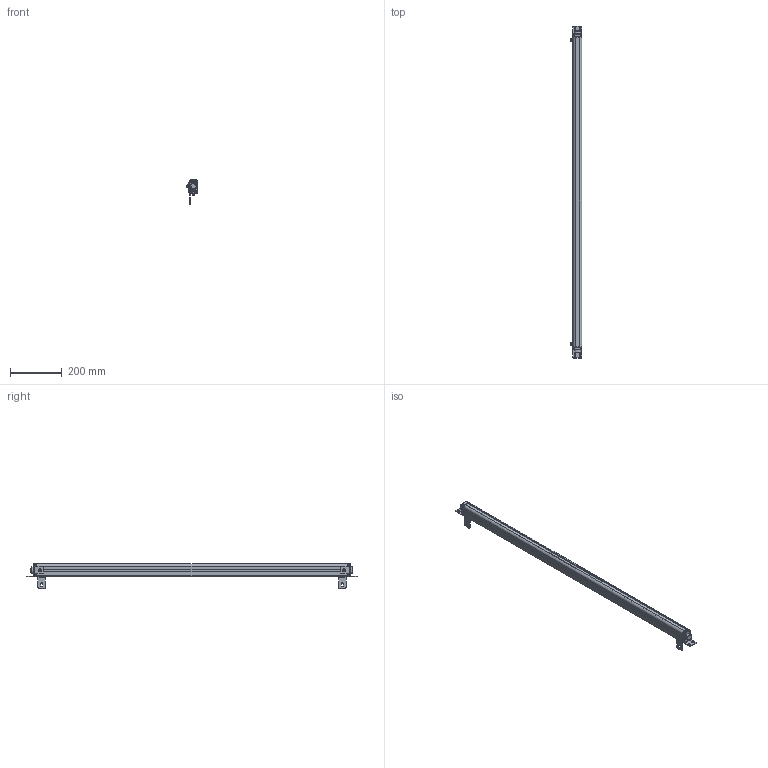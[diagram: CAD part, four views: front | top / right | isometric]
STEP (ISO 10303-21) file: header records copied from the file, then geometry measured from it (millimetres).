
FILE_DESCRIPTION((''),'2;1');
FILE_NAME('ESN--000_ASM','2021-08-11T16:28:58',('18720616900'),(''),'CREO PARAMETRIC BY PTC INC, 2019010','CREO PARAMETRIC BY PTC INC, 2019010','');
FILE_SCHEMA(('CONFIG_CONTROL_DESIGN'));
Products named in the file (22): 00; 000; _0002; _0003; _0004; 5000; 5--0001; ESN_50001_ASM; ST-3-120001; L10001; M6-8--0001; M6-1--00; M6-1-00; M6-80001_ASM; L1--0001_ASM; H1--000; H1--0003_ASM; H1--0001_ASM; ESN--000_ASM
Assembly tree (35 placements, depth 4):
  ESN--000_ASM
    00
    000
    _0002
    _0003
    _0004
    000
    ESN_50001_ASM
      5000
      5--0001  x5
    ST-3-120001  x8
    L1--0001_ASM  x2
      L10001
      M6-80001_ASM
        M6-8--0001
        M6-1--00
        M6-1-00
        00
    H1--0003_ASM
      H1--000
      M6-80001_ASM
        M6-8--0001
        M6-1--00
        M6-1-00
        00
    H1--0001_ASM
      H1--000
      M6-80001_ASM
        M6-8--0001
        M6-1--00
        M6-1-00
        00
Bounding box: 46.5 x 1287 x 94.95 mm (x, y, z)
Volume: 1840086.3 mm3; surface area: 383426.4 mm2
Topology: 40 solids, 40 shells, 1785 faces, 4708 edges, 3012 vertices
Faces by surface type: plane 583, cylinder 416, bspline 362, cone 291, torus 107, sphere 26
Entity records: 48222 total; most frequent: CARTESIAN_POINT 24957, ORIENTED_EDGE 5136, DIRECTION 4189, EDGE_CURVE 2568, VERTEX_POINT 1669, AXIS2_PLACEMENT_3D 1488, VECTOR 1213, LINE 1213
